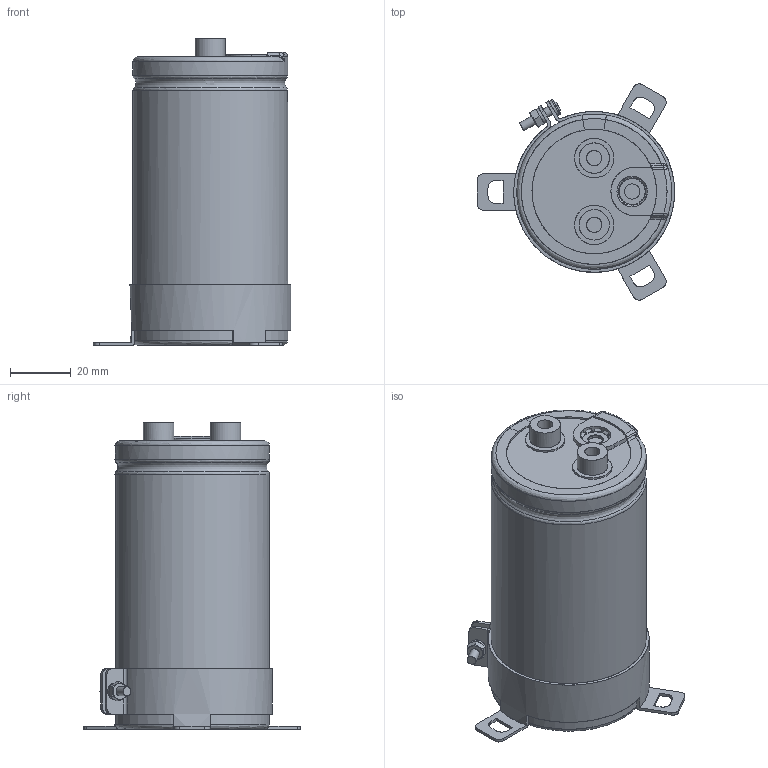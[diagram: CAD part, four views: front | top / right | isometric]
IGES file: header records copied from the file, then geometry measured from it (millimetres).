
Start section: JAMA-IS VERSION  1.0
Bounding box: 65 x 71.22 x 101 mm (x, y, z)
Surface area: 60045.8 mm2 (no closed solid volume)
Topology: 0 solids, 0 shells, 298 faces, 4625 edges, 4595 vertices
Faces by surface type: bspline 298
